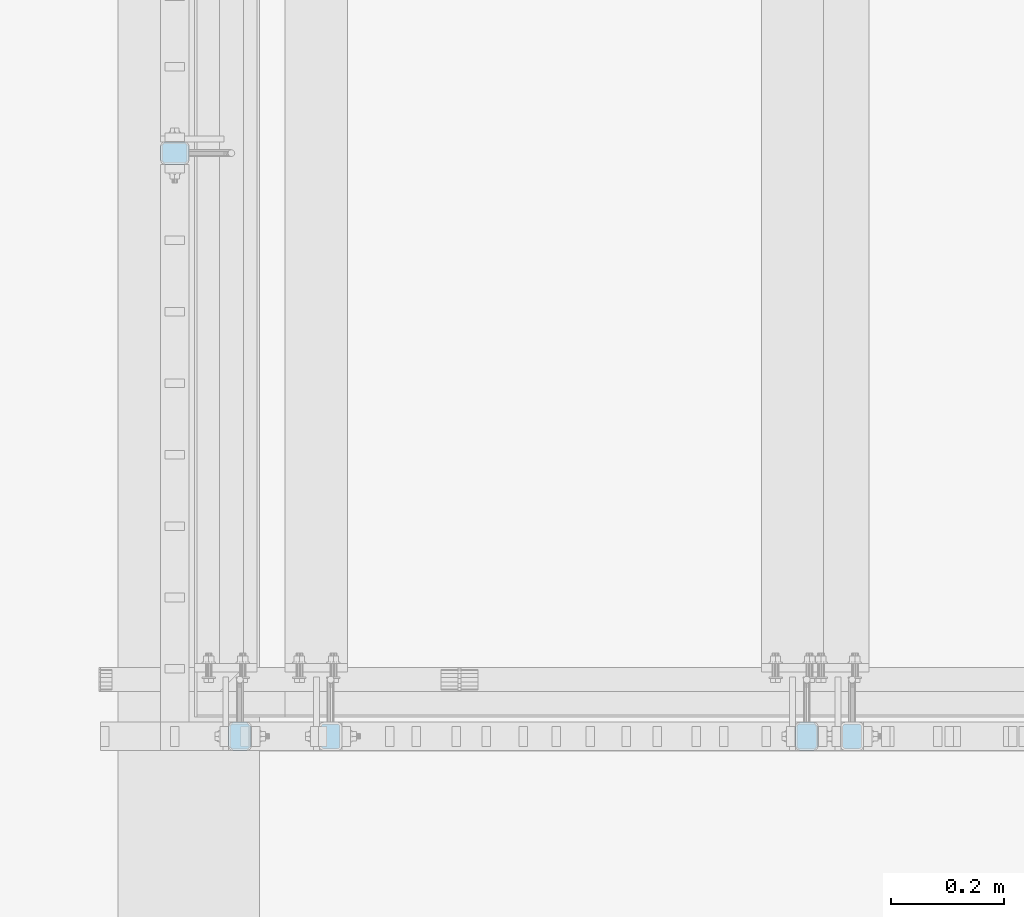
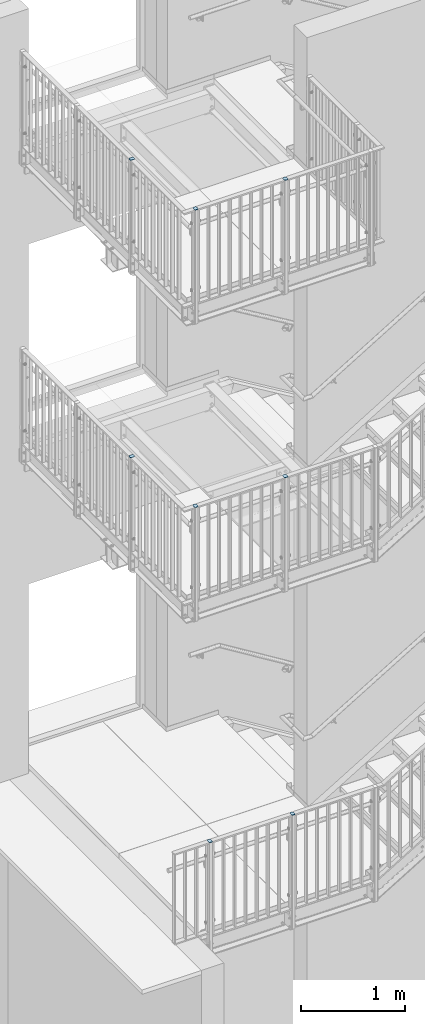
# One storey, part 68 of 410: 8 plates, 32 openings.
"""IFC2X3 building model written with IfcOpenShell, lengths in millimetres."""

from ifc_helpers import new_model, entity, si_unit, converted_unit, point, frame, frame_2d, origin, origin_with_axes, place, context, project, spatial, polyline, circle_curve, line_curve, trimmed, segment, composite_curve, outline, extrude, material, layer, layer_set, element, save


model = new_model("IFC2X3")

# Units and contexts
model_context = context("Model", 3, precision=1e-09, world=origin_with_axes())
ifc_project = project(units=[si_unit("LENGTHUNIT", "METRE", prefix="MILLI"), si_unit("AREAUNIT", "SQUARE_METRE"), si_unit("VOLUMEUNIT", "CUBIC_METRE"), converted_unit("PLANEANGLEUNIT", "DEGREE", entity("IfcPlaneAngleMeasure", 0.01745329), si_unit("PLANEANGLEUNIT", "RADIAN"), dimensions=[0, 0, 0, 0, 0, 0, 0])], contexts=[model_context])

# Site, building, storey
site_placement = place(None, origin_with_axes())
site = spatial("IfcSite", under=ifc_project, at=site_placement, Name="mKR Teilneubau & Sanierung BA1 - Ostfildern", CompositionType="ELEMENT")
building_placement = place(site_placement, origin_with_axes())
building = spatial("IfcBuilding", under=site, at=building_placement, Name="Struktur 1", CompositionType="ELEMENT")
storey_placement = place(building_placement, origin_with_axes())
storey = spatial("IfcBuildingStorey", under=building, at=storey_placement, Name="Default Storey", CompositionType="ELEMENT", Elevation=0.0)

# Plate, openings
ifc_material = material(Name="S235JR")
ifc_layer = layer(ifc_material, 5.0)
ifc_layer_set = layer_set([ifc_layer], Name="S235JR")
plate_1_placement = place(None, frame((-3899.9485317, 16434.999999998, 8595.0), z_axis=(0.0, 0.0, 1.0), x_axis=(1.0, 0.0, 0.0)))
plate_1 = element("IfcPlate", 1, at=plate_1_placement, inside=storey, material=ifc_layer_set, Name="-", ObjectType="-", context=model_context, shape_type="SweptSolid", body=[
    extrude(outline(polyline([(-25.0, -20.0), (25.0, -20.0), (25.0, 20.0), (-25.0, 20.0), (-25.0, -20.0)])), origin_with_axes(), (0.0, 0.0, 1.0), 5.0),
])
opening_1_placement = place(plate_1_placement, frame((0.0, 0.0, -0.01), z_axis=(0.0, 0.0, 1.0), x_axis=(1.0, 0.0, 0.0)))
element("IfcOpeningElement", 2, at=opening_1_placement, cuts=plate_1, ObjectType="Opening", context=model_context, shape_type="SweptSolid", body=[
    extrude(outline(composite_curve([segment(trimmed(line_curve((-25.0, 20.0), (0.0, -1.0), 8.0), [point((-25.0, 20.0))], [point((-25.0, 12.0))], True, "CARTESIAN"), True, "CONTINUOUS"), segment(trimmed(circle_curve(frame_2d((-17.0, 12.0), x_axis=(-1.0, 0.0)), 8.0), [point((-25.0, 12.0))], [point((-17.0, 20.0))], False, "CARTESIAN"), True, "CONTINUOUS"), segment(trimmed(line_curve((-17.0, 20.0), (-1.0, 0.0), 8.0), [point((-17.0, 20.0))], [point((-25.0, 20.0))], True, "CARTESIAN"), True, "CONTINUOUS")], self_intersect=False)), origin(), (0.0, 0.0, 1.0), 5.02),
])
opening_2_placement = place(plate_1_placement, frame((0.0, 0.0, -0.01), z_axis=(0.0, 0.0, 1.0), x_axis=(1.0, 0.0, 0.0)))
element("IfcOpeningElement", 3, at=opening_2_placement, cuts=plate_1, ObjectType="Opening", context=model_context, shape_type="SweptSolid", body=[
    extrude(outline(composite_curve([segment(trimmed(line_curve((25.0, 20.0), (-1.0, 0.0), 8.0), [point((25.0, 20.0))], [point((17.0, 20.0))], True, "CARTESIAN"), True, "CONTINUOUS"), segment(trimmed(circle_curve(frame_2d((17.0, 12.0), x_axis=(-1.0, 0.0)), 8.0), [point((17.0, 20.0))], [point((25.0, 12.0))], False, "CARTESIAN"), True, "CONTINUOUS"), segment(trimmed(line_curve((25.0, 12.0), (0.0, 1.0), 8.0), [point((25.0, 12.0))], [point((25.0, 20.0))], True, "CARTESIAN"), True, "CONTINUOUS")], self_intersect=False)), origin(), (0.0, 0.0, 1.0), 5.02),
])
opening_3_placement = place(plate_1_placement, frame((0.0, 0.0, -0.01), z_axis=(0.0, 0.0, 1.0), x_axis=(1.0, 0.0, 0.0)))
element("IfcOpeningElement", 4, at=opening_3_placement, cuts=plate_1, ObjectType="Opening", context=model_context, shape_type="SweptSolid", body=[
    extrude(outline(composite_curve([segment(trimmed(line_curve((25.0, -20.0), (0.0, 1.0), 8.0), [point((25.0, -20.0))], [point((25.0, -12.0))], True, "CARTESIAN"), True, "CONTINUOUS"), segment(trimmed(circle_curve(frame_2d((17.0, -12.0), x_axis=(-1.0, 0.0)), 8.0), [point((25.0, -12.0))], [point((17.0, -20.0))], False, "CARTESIAN"), True, "CONTINUOUS"), segment(trimmed(line_curve((17.0, -20.0), (1.0, 0.0), 8.0), [point((17.0, -20.0))], [point((25.0, -20.0))], True, "CARTESIAN"), True, "CONTINUOUS")], self_intersect=False)), origin(), (0.0, 0.0, 1.0), 5.02),
])
opening_4_placement = place(plate_1_placement, frame((0.0, 0.0, -0.01), z_axis=(0.0, 0.0, 1.0), x_axis=(1.0, 0.0, 0.0)))
element("IfcOpeningElement", 5, at=opening_4_placement, cuts=plate_1, ObjectType="Opening", context=model_context, shape_type="SweptSolid", body=[
    extrude(outline(composite_curve([segment(trimmed(line_curve((-25.0, -20.0), (1.0, 0.0), 8.0), [point((-25.0, -20.0))], [point((-17.0, -20.0))], True, "CARTESIAN"), True, "CONTINUOUS"), segment(trimmed(circle_curve(frame_2d((-17.0, -12.0), x_axis=(-1.0, 0.0)), 8.0), [point((-17.0, -20.0))], [point((-25.0, -12.0))], False, "CARTESIAN"), True, "CONTINUOUS"), segment(trimmed(line_curve((-25.0, -12.0), (0.0, -1.0), 8.0), [point((-25.0, -12.0))], [point((-25.0, -20.0))], True, "CARTESIAN"), True, "CONTINUOUS")], self_intersect=False)), origin(), (0.0, 0.0, 1.0), 5.02),
])

plate_2_placement = place(None, frame((-3784.99853167, 15405.999999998, 8595.0), z_axis=(0.0, 0.0, 1.0), x_axis=(0.0, 1.0, 0.0)))
plate_2 = element("IfcPlate", 6, at=plate_2_placement, inside=storey, material=ifc_layer_set, Name="-", ObjectType="-", context=model_context, shape_type="SweptSolid", body=[
    extrude(outline(polyline([(-25.0, -20.0), (25.0, -20.0), (25.0, 20.0), (-25.0, 20.0), (-25.0, -20.0)])), origin_with_axes(), (0.0, 0.0, 1.0), 5.0),
])
opening_5_placement = place(plate_2_placement, frame((0.0, 0.0, -0.01), z_axis=(0.0, 0.0, 1.0), x_axis=(1.0, 0.0, 0.0)))
element("IfcOpeningElement", 7, at=opening_5_placement, cuts=plate_2, ObjectType="Opening", context=model_context, shape_type="SweptSolid", body=[
    extrude(outline(composite_curve([segment(trimmed(line_curve((25.0, 20.0), (-1.0, 0.0), 8.0), [point((25.0, 20.0))], [point((17.0, 20.0))], True, "CARTESIAN"), True, "CONTINUOUS"), segment(trimmed(circle_curve(frame_2d((17.0, 12.0), x_axis=(-1.0, 0.0)), 8.0), [point((17.0, 20.0))], [point((25.0, 12.0))], False, "CARTESIAN"), True, "CONTINUOUS"), segment(trimmed(line_curve((25.0, 12.0), (0.0, 1.0), 8.0), [point((25.0, 12.0))], [point((25.0, 20.0))], True, "CARTESIAN"), True, "CONTINUOUS")], self_intersect=False)), origin(), (0.0, 0.0, 1.0), 5.02),
])
opening_6_placement = place(plate_2_placement, frame((0.0, 0.0, -0.01), z_axis=(0.0, 0.0, 1.0), x_axis=(1.0, 0.0, 0.0)))
element("IfcOpeningElement", 8, at=opening_6_placement, cuts=plate_2, ObjectType="Opening", context=model_context, shape_type="SweptSolid", body=[
    extrude(outline(composite_curve([segment(trimmed(line_curve((25.0, -20.0), (0.0, 1.0), 8.0), [point((25.0, -20.0))], [point((25.0, -12.0))], True, "CARTESIAN"), True, "CONTINUOUS"), segment(trimmed(circle_curve(frame_2d((17.0, -12.0), x_axis=(-1.0, 0.0)), 8.0), [point((25.0, -12.0))], [point((17.0, -20.0))], False, "CARTESIAN"), True, "CONTINUOUS"), segment(trimmed(line_curve((17.0, -20.0), (1.0, 0.0), 8.0), [point((17.0, -20.0))], [point((25.0, -20.0))], True, "CARTESIAN"), True, "CONTINUOUS")], self_intersect=False)), origin(), (0.0, 0.0, 1.0), 5.02),
])
opening_7_placement = place(plate_2_placement, frame((0.0, 0.0, -0.01), z_axis=(0.0, 0.0, 1.0), x_axis=(1.0, 0.0, 0.0)))
element("IfcOpeningElement", 9, at=opening_7_placement, cuts=plate_2, ObjectType="Opening", context=model_context, shape_type="SweptSolid", body=[
    extrude(outline(composite_curve([segment(trimmed(line_curve((-25.0, -20.0), (1.0, 0.0), 8.0), [point((-25.0, -20.0))], [point((-17.0, -20.0))], True, "CARTESIAN"), True, "CONTINUOUS"), segment(trimmed(circle_curve(frame_2d((-17.0, -12.0), x_axis=(-1.0, 0.0)), 8.0), [point((-17.0, -20.0))], [point((-25.0, -12.0))], False, "CARTESIAN"), True, "CONTINUOUS"), segment(trimmed(line_curve((-25.0, -12.0), (0.0, -1.0), 8.0), [point((-25.0, -12.0))], [point((-25.0, -20.0))], True, "CARTESIAN"), True, "CONTINUOUS")], self_intersect=False)), origin(), (0.0, 0.0, 1.0), 5.02),
])
opening_8_placement = place(plate_2_placement, frame((0.0, 0.0, -0.01), z_axis=(0.0, 0.0, 1.0), x_axis=(1.0, 0.0, 0.0)))
element("IfcOpeningElement", 10, at=opening_8_placement, cuts=plate_2, ObjectType="Opening", context=model_context, shape_type="SweptSolid", body=[
    extrude(outline(composite_curve([segment(trimmed(line_curve((-25.0, 20.0), (0.0, -1.0), 8.0), [point((-25.0, 20.0))], [point((-25.0, 12.0))], True, "CARTESIAN"), True, "CONTINUOUS"), segment(trimmed(circle_curve(frame_2d((-17.0, 12.0), x_axis=(-1.0, 0.0)), 8.0), [point((-25.0, 12.0))], [point((-17.0, 20.0))], False, "CARTESIAN"), True, "CONTINUOUS"), segment(trimmed(line_curve((-17.0, 20.0), (-1.0, 0.0), 8.0), [point((-17.0, 20.0))], [point((-25.0, 20.0))], True, "CARTESIAN"), True, "CONTINUOUS")], self_intersect=False)), origin(), (0.0, 0.0, 1.0), 5.02),
])

plate_3_placement = place(None, frame((-2784.99853167, 15405.999999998, 8595.0), z_axis=(0.0, 0.0, 1.0), x_axis=(0.0, 1.0, 0.0)))
plate_3 = element("IfcPlate", 11, at=plate_3_placement, inside=storey, material=ifc_layer_set, Name="-", ObjectType="-", context=model_context, shape_type="SweptSolid", body=[
    extrude(outline(polyline([(-25.0, -20.0), (25.0, -20.0), (25.0, 20.0), (-25.0, 20.0), (-25.0, -20.0)])), origin_with_axes(), (0.0, 0.0, 1.0), 5.0),
])
opening_9_placement = place(plate_3_placement, frame((0.0, 0.0, -0.01), z_axis=(0.0, 0.0, 1.0), x_axis=(1.0, 0.0, 0.0)))
element("IfcOpeningElement", 12, at=opening_9_placement, cuts=plate_3, ObjectType="Opening", context=model_context, shape_type="SweptSolid", body=[
    extrude(outline(composite_curve([segment(trimmed(line_curve((25.0, 20.0), (-1.0, 0.0), 8.0), [point((25.0, 20.0))], [point((17.0, 20.0))], True, "CARTESIAN"), True, "CONTINUOUS"), segment(trimmed(circle_curve(frame_2d((17.0, 12.0), x_axis=(-1.0, 0.0)), 8.0), [point((17.0, 20.0))], [point((25.0, 12.0))], False, "CARTESIAN"), True, "CONTINUOUS"), segment(trimmed(line_curve((25.0, 12.0), (0.0, 1.0), 8.0), [point((25.0, 12.0))], [point((25.0, 20.0))], True, "CARTESIAN"), True, "CONTINUOUS")], self_intersect=False)), origin(), (0.0, 0.0, 1.0), 5.02),
])
opening_10_placement = place(plate_3_placement, frame((0.0, 0.0, -0.01), z_axis=(0.0, 0.0, 1.0), x_axis=(1.0, 0.0, 0.0)))
element("IfcOpeningElement", 13, at=opening_10_placement, cuts=plate_3, ObjectType="Opening", context=model_context, shape_type="SweptSolid", body=[
    extrude(outline(composite_curve([segment(trimmed(line_curve((25.0, -20.0), (0.0, 1.0), 8.0), [point((25.0, -20.0))], [point((25.0, -12.0))], True, "CARTESIAN"), True, "CONTINUOUS"), segment(trimmed(circle_curve(frame_2d((17.0, -12.0), x_axis=(-1.0, 0.0)), 8.0), [point((25.0, -12.0))], [point((17.0, -20.0))], False, "CARTESIAN"), True, "CONTINUOUS"), segment(trimmed(line_curve((17.0, -20.0), (1.0, 0.0), 8.0), [point((17.0, -20.0))], [point((25.0, -20.0))], True, "CARTESIAN"), True, "CONTINUOUS")], self_intersect=False)), origin(), (0.0, 0.0, 1.0), 5.02),
])
opening_11_placement = place(plate_3_placement, frame((0.0, 0.0, -0.01), z_axis=(0.0, 0.0, 1.0), x_axis=(1.0, 0.0, 0.0)))
element("IfcOpeningElement", 14, at=opening_11_placement, cuts=plate_3, ObjectType="Opening", context=model_context, shape_type="SweptSolid", body=[
    extrude(outline(composite_curve([segment(trimmed(line_curve((-25.0, -20.0), (1.0, 0.0), 8.0), [point((-25.0, -20.0))], [point((-17.0, -20.0))], True, "CARTESIAN"), True, "CONTINUOUS"), segment(trimmed(circle_curve(frame_2d((-17.0, -12.0), x_axis=(-1.0, 0.0)), 8.0), [point((-17.0, -20.0))], [point((-25.0, -12.0))], False, "CARTESIAN"), True, "CONTINUOUS"), segment(trimmed(line_curve((-25.0, -12.0), (0.0, -1.0), 8.0), [point((-25.0, -12.0))], [point((-25.0, -20.0))], True, "CARTESIAN"), True, "CONTINUOUS")], self_intersect=False)), origin(), (0.0, 0.0, 1.0), 5.02),
])
opening_12_placement = place(plate_3_placement, frame((0.0, 0.0, -0.01), z_axis=(0.0, 0.0, 1.0), x_axis=(1.0, 0.0, 0.0)))
element("IfcOpeningElement", 15, at=opening_12_placement, cuts=plate_3, ObjectType="Opening", context=model_context, shape_type="SweptSolid", body=[
    extrude(outline(composite_curve([segment(trimmed(line_curve((-25.0, 20.0), (0.0, -1.0), 8.0), [point((-25.0, 20.0))], [point((-25.0, 12.0))], True, "CARTESIAN"), True, "CONTINUOUS"), segment(trimmed(circle_curve(frame_2d((-17.0, 12.0), x_axis=(-1.0, 0.0)), 8.0), [point((-25.0, 12.0))], [point((-17.0, 20.0))], False, "CARTESIAN"), True, "CONTINUOUS"), segment(trimmed(line_curve((-17.0, 20.0), (-1.0, 0.0), 8.0), [point((-17.0, 20.0))], [point((-25.0, 20.0))], True, "CARTESIAN"), True, "CONTINUOUS")], self_intersect=False)), origin(), (0.0, 0.0, 1.0), 5.02),
])

plate_4_placement = place(None, frame((-3784.99853167, 15405.999999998, 5095.0), z_axis=(0.0, 0.0, 1.0), x_axis=(0.0, 1.0, 0.0)))
plate_4 = element("IfcPlate", 16, at=plate_4_placement, inside=storey, material=ifc_layer_set, Name="-", ObjectType="-", context=model_context, shape_type="SweptSolid", body=[
    extrude(outline(polyline([(-25.0, -20.0), (25.0, -20.0), (25.0, 20.0), (-25.0, 20.0), (-25.0, -20.0)])), origin_with_axes(), (0.0, 0.0, 1.0), 5.0),
])
opening_13_placement = place(plate_4_placement, frame((0.0, 0.0, -0.01), z_axis=(0.0, 0.0, 1.0), x_axis=(1.0, 0.0, 0.0)))
element("IfcOpeningElement", 17, at=opening_13_placement, cuts=plate_4, ObjectType="Opening", context=model_context, shape_type="SweptSolid", body=[
    extrude(outline(composite_curve([segment(trimmed(line_curve((-25.0, -20.0), (1.0, 0.0), 8.0), [point((-25.0, -20.0))], [point((-17.0, -20.0))], True, "CARTESIAN"), True, "CONTINUOUS"), segment(trimmed(circle_curve(frame_2d((-17.0, -12.0), x_axis=(-1.0, 0.0)), 8.0), [point((-17.0, -20.0))], [point((-25.0, -12.0))], False, "CARTESIAN"), True, "CONTINUOUS"), segment(trimmed(line_curve((-25.0, -12.0), (0.0, -1.0), 8.0), [point((-25.0, -12.0))], [point((-25.0, -20.0))], True, "CARTESIAN"), True, "CONTINUOUS")], self_intersect=False)), origin(), (0.0, 0.0, 1.0), 5.02),
])
opening_14_placement = place(plate_4_placement, frame((0.0, 0.0, -0.01), z_axis=(0.0, 0.0, 1.0), x_axis=(1.0, 0.0, 0.0)))
element("IfcOpeningElement", 18, at=opening_14_placement, cuts=plate_4, ObjectType="Opening", context=model_context, shape_type="SweptSolid", body=[
    extrude(outline(composite_curve([segment(trimmed(line_curve((25.0, -20.0), (0.0, 1.0), 8.0), [point((25.0, -20.0))], [point((25.0, -12.0))], True, "CARTESIAN"), True, "CONTINUOUS"), segment(trimmed(circle_curve(frame_2d((17.0, -12.0), x_axis=(-1.0, 0.0)), 8.0), [point((25.0, -12.0))], [point((17.0, -20.0))], False, "CARTESIAN"), True, "CONTINUOUS"), segment(trimmed(line_curve((17.0, -20.0), (1.0, 0.0), 8.0), [point((17.0, -20.0))], [point((25.0, -20.0))], True, "CARTESIAN"), True, "CONTINUOUS")], self_intersect=False)), origin(), (0.0, 0.0, 1.0), 5.02),
])
opening_15_placement = place(plate_4_placement, frame((0.0, 0.0, -0.01), z_axis=(0.0, 0.0, 1.0), x_axis=(1.0, 0.0, 0.0)))
element("IfcOpeningElement", 19, at=opening_15_placement, cuts=plate_4, ObjectType="Opening", context=model_context, shape_type="SweptSolid", body=[
    extrude(outline(composite_curve([segment(trimmed(line_curve((25.0, 20.0), (-1.0, 0.0), 8.0), [point((25.0, 20.0))], [point((17.0, 20.0))], True, "CARTESIAN"), True, "CONTINUOUS"), segment(trimmed(circle_curve(frame_2d((17.0, 12.0), x_axis=(-1.0, 0.0)), 8.0), [point((17.0, 20.0))], [point((25.0, 12.0))], False, "CARTESIAN"), True, "CONTINUOUS"), segment(trimmed(line_curve((25.0, 12.0), (0.0, 1.0), 8.0), [point((25.0, 12.0))], [point((25.0, 20.0))], True, "CARTESIAN"), True, "CONTINUOUS")], self_intersect=False)), origin(), (0.0, 0.0, 1.0), 5.02),
])
opening_16_placement = place(plate_4_placement, frame((0.0, 0.0, -0.01), z_axis=(0.0, 0.0, 1.0), x_axis=(1.0, 0.0, 0.0)))
element("IfcOpeningElement", 20, at=opening_16_placement, cuts=plate_4, ObjectType="Opening", context=model_context, shape_type="SweptSolid", body=[
    extrude(outline(composite_curve([segment(trimmed(line_curve((-25.0, 20.0), (0.0, -1.0), 8.0), [point((-25.0, 20.0))], [point((-25.0, 12.0))], True, "CARTESIAN"), True, "CONTINUOUS"), segment(trimmed(circle_curve(frame_2d((-17.0, 12.0), x_axis=(-1.0, 0.0)), 8.0), [point((-25.0, 12.0))], [point((-17.0, 20.0))], False, "CARTESIAN"), True, "CONTINUOUS"), segment(trimmed(line_curve((-17.0, 20.0), (-1.0, 0.0), 8.0), [point((-17.0, 20.0))], [point((-25.0, 20.0))], True, "CARTESIAN"), True, "CONTINUOUS")], self_intersect=False)), origin(), (0.0, 0.0, 1.0), 5.02),
])

plate_5_placement = place(None, frame((-2784.99853167, 15405.999999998, 5095.0), z_axis=(0.0, 0.0, 1.0), x_axis=(0.0, 1.0, 0.0)))
plate_5 = element("IfcPlate", 21, at=plate_5_placement, inside=storey, material=ifc_layer_set, Name="-", ObjectType="-", context=model_context, shape_type="SweptSolid", body=[
    extrude(outline(polyline([(-25.0, -20.0), (25.0, -20.0), (25.0, 20.0), (-25.0, 20.0), (-25.0, -20.0)])), origin_with_axes(), (0.0, 0.0, 1.0), 5.0),
])
opening_17_placement = place(plate_5_placement, frame((0.0, 0.0, -0.01), z_axis=(0.0, 0.0, 1.0), x_axis=(1.0, 0.0, 0.0)))
element("IfcOpeningElement", 22, at=opening_17_placement, cuts=plate_5, ObjectType="Opening", context=model_context, shape_type="SweptSolid", body=[
    extrude(outline(composite_curve([segment(trimmed(line_curve((25.0, -20.0), (0.0, 1.0), 8.0), [point((25.0, -20.0))], [point((25.0, -12.0))], True, "CARTESIAN"), True, "CONTINUOUS"), segment(trimmed(circle_curve(frame_2d((17.0, -12.0), x_axis=(-1.0, 0.0)), 8.0), [point((25.0, -12.0))], [point((17.0, -20.0))], False, "CARTESIAN"), True, "CONTINUOUS"), segment(trimmed(line_curve((17.0, -20.0), (1.0, 0.0), 8.0), [point((17.0, -20.0))], [point((25.0, -20.0))], True, "CARTESIAN"), True, "CONTINUOUS")], self_intersect=False)), origin(), (0.0, 0.0, 1.0), 5.02),
])
opening_18_placement = place(plate_5_placement, frame((0.0, 0.0, -0.01), z_axis=(0.0, 0.0, 1.0), x_axis=(1.0, 0.0, 0.0)))
element("IfcOpeningElement", 23, at=opening_18_placement, cuts=plate_5, ObjectType="Opening", context=model_context, shape_type="SweptSolid", body=[
    extrude(outline(composite_curve([segment(trimmed(line_curve((-25.0, -20.0), (1.0, 0.0), 8.0), [point((-25.0, -20.0))], [point((-17.0, -20.0))], True, "CARTESIAN"), True, "CONTINUOUS"), segment(trimmed(circle_curve(frame_2d((-17.0, -12.0), x_axis=(-1.0, 0.0)), 8.0), [point((-17.0, -20.0))], [point((-25.0, -12.0))], False, "CARTESIAN"), True, "CONTINUOUS"), segment(trimmed(line_curve((-25.0, -12.0), (0.0, -1.0), 8.0), [point((-25.0, -12.0))], [point((-25.0, -20.0))], True, "CARTESIAN"), True, "CONTINUOUS")], self_intersect=False)), origin(), (0.0, 0.0, 1.0), 5.02),
])
opening_19_placement = place(plate_5_placement, frame((0.0, 0.0, -0.01), z_axis=(0.0, 0.0, 1.0), x_axis=(1.0, 0.0, 0.0)))
element("IfcOpeningElement", 24, at=opening_19_placement, cuts=plate_5, ObjectType="Opening", context=model_context, shape_type="SweptSolid", body=[
    extrude(outline(composite_curve([segment(trimmed(line_curve((-25.0, 20.0), (0.0, -1.0), 8.0), [point((-25.0, 20.0))], [point((-25.0, 12.0))], True, "CARTESIAN"), True, "CONTINUOUS"), segment(trimmed(circle_curve(frame_2d((-17.0, 12.0), x_axis=(-1.0, 0.0)), 8.0), [point((-25.0, 12.0))], [point((-17.0, 20.0))], False, "CARTESIAN"), True, "CONTINUOUS"), segment(trimmed(line_curve((-17.0, 20.0), (-1.0, 0.0), 8.0), [point((-17.0, 20.0))], [point((-25.0, 20.0))], True, "CARTESIAN"), True, "CONTINUOUS")], self_intersect=False)), origin(), (0.0, 0.0, 1.0), 5.02),
])
opening_20_placement = place(plate_5_placement, frame((0.0, 0.0, -0.01), z_axis=(0.0, 0.0, 1.0), x_axis=(1.0, 0.0, 0.0)))
element("IfcOpeningElement", 25, at=opening_20_placement, cuts=plate_5, ObjectType="Opening", context=model_context, shape_type="SweptSolid", body=[
    extrude(outline(composite_curve([segment(trimmed(line_curve((25.0, 20.0), (-1.0, 0.0), 8.0), [point((25.0, 20.0))], [point((17.0, 20.0))], True, "CARTESIAN"), True, "CONTINUOUS"), segment(trimmed(circle_curve(frame_2d((17.0, 12.0), x_axis=(-1.0, 0.0)), 8.0), [point((17.0, 20.0))], [point((25.0, 12.0))], False, "CARTESIAN"), True, "CONTINUOUS"), segment(trimmed(line_curve((25.0, 12.0), (0.0, 1.0), 8.0), [point((25.0, 12.0))], [point((25.0, 20.0))], True, "CARTESIAN"), True, "CONTINUOUS")], self_intersect=False)), origin(), (0.0, 0.0, 1.0), 5.02),
])

plate_6_placement = place(None, frame((-3624.99853167, 15405.999999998, 1095.0), z_axis=(0.0, 0.0, 1.0), x_axis=(0.0, 1.0, 0.0)))
plate_6 = element("IfcPlate", 26, at=plate_6_placement, inside=storey, material=ifc_layer_set, Name="-", ObjectType="-", context=model_context, shape_type="SweptSolid", body=[
    extrude(outline(polyline([(-25.0, -20.0), (25.0, -20.0), (25.0, 20.0), (-25.0, 20.0), (-25.0, -20.0)])), origin_with_axes(), (0.0, 0.0, 1.0), 5.0),
])
opening_21_placement = place(plate_6_placement, frame((0.0, 0.0, -0.01), z_axis=(0.0, 0.0, 1.0), x_axis=(1.0, 0.0, 0.0)))
element("IfcOpeningElement", 27, at=opening_21_placement, cuts=plate_6, ObjectType="Opening", context=model_context, shape_type="SweptSolid", body=[
    extrude(outline(composite_curve([segment(trimmed(line_curve((25.0, 20.0), (-1.0, 0.0), 8.0), [point((25.0, 20.0))], [point((17.0, 20.0))], True, "CARTESIAN"), True, "CONTINUOUS"), segment(trimmed(circle_curve(frame_2d((17.0, 12.0), x_axis=(-1.0, 0.0)), 8.0), [point((17.0, 20.0))], [point((25.0, 12.0))], False, "CARTESIAN"), True, "CONTINUOUS"), segment(trimmed(line_curve((25.0, 12.0), (0.0, 1.0), 8.0), [point((25.0, 12.0))], [point((25.0, 20.0))], True, "CARTESIAN"), True, "CONTINUOUS")], self_intersect=False)), origin(), (0.0, 0.0, 1.0), 5.02),
])
opening_22_placement = place(plate_6_placement, frame((0.0, 0.0, -0.01), z_axis=(0.0, 0.0, 1.0), x_axis=(1.0, 0.0, 0.0)))
element("IfcOpeningElement", 28, at=opening_22_placement, cuts=plate_6, ObjectType="Opening", context=model_context, shape_type="SweptSolid", body=[
    extrude(outline(composite_curve([segment(trimmed(line_curve((25.0, -20.0), (0.0, 1.0), 8.0), [point((25.0, -20.0))], [point((25.0, -12.0))], True, "CARTESIAN"), True, "CONTINUOUS"), segment(trimmed(circle_curve(frame_2d((17.0, -12.0), x_axis=(-1.0, 0.0)), 8.0), [point((25.0, -12.0))], [point((17.0, -20.0))], False, "CARTESIAN"), True, "CONTINUOUS"), segment(trimmed(line_curve((17.0, -20.0), (1.0, 0.0), 8.0), [point((17.0, -20.0))], [point((25.0, -20.0))], True, "CARTESIAN"), True, "CONTINUOUS")], self_intersect=False)), origin(), (0.0, 0.0, 1.0), 5.02),
])
opening_23_placement = place(plate_6_placement, frame((0.0, 0.0, -0.01), z_axis=(0.0, 0.0, 1.0), x_axis=(1.0, 0.0, 0.0)))
element("IfcOpeningElement", 29, at=opening_23_placement, cuts=plate_6, ObjectType="Opening", context=model_context, shape_type="SweptSolid", body=[
    extrude(outline(composite_curve([segment(trimmed(line_curve((-25.0, -20.0), (1.0, 0.0), 8.0), [point((-25.0, -20.0))], [point((-17.0, -20.0))], True, "CARTESIAN"), True, "CONTINUOUS"), segment(trimmed(circle_curve(frame_2d((-17.0, -12.0), x_axis=(-1.0, 0.0)), 8.0), [point((-17.0, -20.0))], [point((-25.0, -12.0))], False, "CARTESIAN"), True, "CONTINUOUS"), segment(trimmed(line_curve((-25.0, -12.0), (0.0, -1.0), 8.0), [point((-25.0, -12.0))], [point((-25.0, -20.0))], True, "CARTESIAN"), True, "CONTINUOUS")], self_intersect=False)), origin(), (0.0, 0.0, 1.0), 5.02),
])
opening_24_placement = place(plate_6_placement, frame((0.0, 0.0, -0.01), z_axis=(0.0, 0.0, 1.0), x_axis=(1.0, 0.0, 0.0)))
element("IfcOpeningElement", 30, at=opening_24_placement, cuts=plate_6, ObjectType="Opening", context=model_context, shape_type="SweptSolid", body=[
    extrude(outline(composite_curve([segment(trimmed(line_curve((-25.0, 20.0), (0.0, -1.0), 8.0), [point((-25.0, 20.0))], [point((-25.0, 12.0))], True, "CARTESIAN"), True, "CONTINUOUS"), segment(trimmed(circle_curve(frame_2d((-17.0, 12.0), x_axis=(-1.0, 0.0)), 8.0), [point((-25.0, 12.0))], [point((-17.0, 20.0))], False, "CARTESIAN"), True, "CONTINUOUS"), segment(trimmed(line_curve((-17.0, 20.0), (-1.0, 0.0), 8.0), [point((-17.0, 20.0))], [point((-25.0, 20.0))], True, "CARTESIAN"), True, "CONTINUOUS")], self_intersect=False)), origin(), (0.0, 0.0, 1.0), 5.02),
])

plate_7_placement = place(None, frame((-2704.99853167, 15405.999999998, 1095.0), z_axis=(0.0, 0.0, 1.0), x_axis=(0.0, 1.0, 0.0)))
plate_7 = element("IfcPlate", 31, at=plate_7_placement, inside=storey, material=ifc_layer_set, Name="-", ObjectType="-", context=model_context, shape_type="SweptSolid", body=[
    extrude(outline(polyline([(-25.0, -20.0), (25.0, -20.0), (25.0, 20.0), (-25.0, 20.0), (-25.0, -20.0)])), origin_with_axes(), (0.0, 0.0, 1.0), 5.0),
])
opening_25_placement = place(plate_7_placement, frame((0.0, 0.0, -0.01), z_axis=(0.0, 0.0, 1.0), x_axis=(1.0, 0.0, 0.0)))
element("IfcOpeningElement", 32, at=opening_25_placement, cuts=plate_7, ObjectType="Opening", context=model_context, shape_type="SweptSolid", body=[
    extrude(outline(composite_curve([segment(trimmed(line_curve((25.0, 20.0), (-1.0, 0.0), 8.0), [point((25.0, 20.0))], [point((17.0, 20.0))], True, "CARTESIAN"), True, "CONTINUOUS"), segment(trimmed(circle_curve(frame_2d((17.0, 12.0), x_axis=(-1.0, 0.0)), 8.0), [point((17.0, 20.0))], [point((25.0, 12.0))], False, "CARTESIAN"), True, "CONTINUOUS"), segment(trimmed(line_curve((25.0, 12.0), (0.0, 1.0), 8.0), [point((25.0, 12.0))], [point((25.0, 20.0))], True, "CARTESIAN"), True, "CONTINUOUS")], self_intersect=False)), origin(), (0.0, 0.0, 1.0), 5.02),
])
opening_26_placement = place(plate_7_placement, frame((0.0, 0.0, -0.01), z_axis=(0.0, 0.0, 1.0), x_axis=(1.0, 0.0, 0.0)))
element("IfcOpeningElement", 33, at=opening_26_placement, cuts=plate_7, ObjectType="Opening", context=model_context, shape_type="SweptSolid", body=[
    extrude(outline(composite_curve([segment(trimmed(line_curve((25.0, -20.0), (0.0, 1.0), 8.0), [point((25.0, -20.0))], [point((25.0, -12.0))], True, "CARTESIAN"), True, "CONTINUOUS"), segment(trimmed(circle_curve(frame_2d((17.0, -12.0), x_axis=(-1.0, 0.0)), 8.0), [point((25.0, -12.0))], [point((17.0, -20.0))], False, "CARTESIAN"), True, "CONTINUOUS"), segment(trimmed(line_curve((17.0, -20.0), (1.0, 0.0), 8.0), [point((17.0, -20.0))], [point((25.0, -20.0))], True, "CARTESIAN"), True, "CONTINUOUS")], self_intersect=False)), origin(), (0.0, 0.0, 1.0), 5.02),
])
opening_27_placement = place(plate_7_placement, frame((0.0, 0.0, -0.01), z_axis=(0.0, 0.0, 1.0), x_axis=(1.0, 0.0, 0.0)))
element("IfcOpeningElement", 34, at=opening_27_placement, cuts=plate_7, ObjectType="Opening", context=model_context, shape_type="SweptSolid", body=[
    extrude(outline(composite_curve([segment(trimmed(line_curve((-25.0, -20.0), (1.0, 0.0), 8.0), [point((-25.0, -20.0))], [point((-17.0, -20.0))], True, "CARTESIAN"), True, "CONTINUOUS"), segment(trimmed(circle_curve(frame_2d((-17.0, -12.0), x_axis=(-1.0, 0.0)), 8.0), [point((-17.0, -20.0))], [point((-25.0, -12.0))], False, "CARTESIAN"), True, "CONTINUOUS"), segment(trimmed(line_curve((-25.0, -12.0), (0.0, -1.0), 8.0), [point((-25.0, -12.0))], [point((-25.0, -20.0))], True, "CARTESIAN"), True, "CONTINUOUS")], self_intersect=False)), origin(), (0.0, 0.0, 1.0), 5.02),
])
opening_28_placement = place(plate_7_placement, frame((0.0, 0.0, -0.01), z_axis=(0.0, 0.0, 1.0), x_axis=(1.0, 0.0, 0.0)))
element("IfcOpeningElement", 35, at=opening_28_placement, cuts=plate_7, ObjectType="Opening", context=model_context, shape_type="SweptSolid", body=[
    extrude(outline(composite_curve([segment(trimmed(line_curve((-25.0, 20.0), (0.0, -1.0), 8.0), [point((-25.0, 20.0))], [point((-25.0, 12.0))], True, "CARTESIAN"), True, "CONTINUOUS"), segment(trimmed(circle_curve(frame_2d((-17.0, 12.0), x_axis=(-1.0, 0.0)), 8.0), [point((-25.0, 12.0))], [point((-17.0, 20.0))], False, "CARTESIAN"), True, "CONTINUOUS"), segment(trimmed(line_curve((-17.0, 20.0), (-1.0, 0.0), 8.0), [point((-17.0, 20.0))], [point((-25.0, 20.0))], True, "CARTESIAN"), True, "CONTINUOUS")], self_intersect=False)), origin(), (0.0, 0.0, 1.0), 5.02),
])

plate_8_placement = place(None, frame((-3899.9485317, 16434.999999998, 5095.0), z_axis=(0.0, 0.0, 1.0), x_axis=(1.0, 0.0, 0.0)))
plate_8 = element("IfcPlate", 36, at=plate_8_placement, inside=storey, material=ifc_layer_set, Name="-", ObjectType="-", context=model_context, shape_type="SweptSolid", body=[
    extrude(outline(polyline([(-25.0, -20.0), (25.0, -20.0), (25.0, 20.0), (-25.0, 20.0), (-25.0, -20.0)])), origin_with_axes(), (0.0, 0.0, 1.0), 5.0),
])
opening_29_placement = place(plate_8_placement, frame((0.0, 0.0, -0.01), z_axis=(0.0, 0.0, 1.0), x_axis=(1.0, 0.0, 0.0)))
element("IfcOpeningElement", 37, at=opening_29_placement, cuts=plate_8, ObjectType="Opening", context=model_context, shape_type="SweptSolid", body=[
    extrude(outline(composite_curve([segment(trimmed(line_curve((-25.0, 20.0), (0.0, -1.0), 8.0), [point((-25.0, 20.0))], [point((-25.0, 12.0))], True, "CARTESIAN"), True, "CONTINUOUS"), segment(trimmed(circle_curve(frame_2d((-17.0, 12.0), x_axis=(-1.0, 0.0)), 8.0), [point((-25.0, 12.0))], [point((-17.0, 20.0))], False, "CARTESIAN"), True, "CONTINUOUS"), segment(trimmed(line_curve((-17.0, 20.0), (-1.0, 0.0), 8.0), [point((-17.0, 20.0))], [point((-25.0, 20.0))], True, "CARTESIAN"), True, "CONTINUOUS")], self_intersect=False)), origin(), (0.0, 0.0, 1.0), 5.02),
])
opening_30_placement = place(plate_8_placement, frame((0.0, 0.0, -0.01), z_axis=(0.0, 0.0, 1.0), x_axis=(1.0, 0.0, 0.0)))
element("IfcOpeningElement", 38, at=opening_30_placement, cuts=plate_8, ObjectType="Opening", context=model_context, shape_type="SweptSolid", body=[
    extrude(outline(composite_curve([segment(trimmed(line_curve((25.0, 20.0), (-1.0, 0.0), 8.0), [point((25.0, 20.0))], [point((17.0, 20.0))], True, "CARTESIAN"), True, "CONTINUOUS"), segment(trimmed(circle_curve(frame_2d((17.0, 12.0), x_axis=(-1.0, 0.0)), 8.0), [point((17.0, 20.0))], [point((25.0, 12.0))], False, "CARTESIAN"), True, "CONTINUOUS"), segment(trimmed(line_curve((25.0, 12.0), (0.0, 1.0), 8.0), [point((25.0, 12.0))], [point((25.0, 20.0))], True, "CARTESIAN"), True, "CONTINUOUS")], self_intersect=False)), origin(), (0.0, 0.0, 1.0), 5.02),
])
opening_31_placement = place(plate_8_placement, frame((0.0, 0.0, -0.01), z_axis=(0.0, 0.0, 1.0), x_axis=(1.0, 0.0, 0.0)))
element("IfcOpeningElement", 39, at=opening_31_placement, cuts=plate_8, ObjectType="Opening", context=model_context, shape_type="SweptSolid", body=[
    extrude(outline(composite_curve([segment(trimmed(line_curve((25.0, -20.0), (0.0, 1.0), 8.0), [point((25.0, -20.0))], [point((25.0, -12.0))], True, "CARTESIAN"), True, "CONTINUOUS"), segment(trimmed(circle_curve(frame_2d((17.0, -12.0), x_axis=(-1.0, 0.0)), 8.0), [point((25.0, -12.0))], [point((17.0, -20.0))], False, "CARTESIAN"), True, "CONTINUOUS"), segment(trimmed(line_curve((17.0, -20.0), (1.0, 0.0), 8.0), [point((17.0, -20.0))], [point((25.0, -20.0))], True, "CARTESIAN"), True, "CONTINUOUS")], self_intersect=False)), origin(), (0.0, 0.0, 1.0), 5.02),
])
opening_32_placement = place(plate_8_placement, frame((0.0, 0.0, -0.01), z_axis=(0.0, 0.0, 1.0), x_axis=(1.0, 0.0, 0.0)))
element("IfcOpeningElement", 40, at=opening_32_placement, cuts=plate_8, ObjectType="Opening", context=model_context, shape_type="SweptSolid", body=[
    extrude(outline(composite_curve([segment(trimmed(line_curve((-25.0, -20.0), (1.0, 0.0), 8.0), [point((-25.0, -20.0))], [point((-17.0, -20.0))], True, "CARTESIAN"), True, "CONTINUOUS"), segment(trimmed(circle_curve(frame_2d((-17.0, -12.0), x_axis=(-1.0, 0.0)), 8.0), [point((-17.0, -20.0))], [point((-25.0, -12.0))], False, "CARTESIAN"), True, "CONTINUOUS"), segment(trimmed(line_curve((-25.0, -12.0), (0.0, -1.0), 8.0), [point((-25.0, -12.0))], [point((-25.0, -20.0))], True, "CARTESIAN"), True, "CONTINUOUS")], self_intersect=False)), origin(), (0.0, 0.0, 1.0), 5.02),
])

save(model, "model.ifc")
